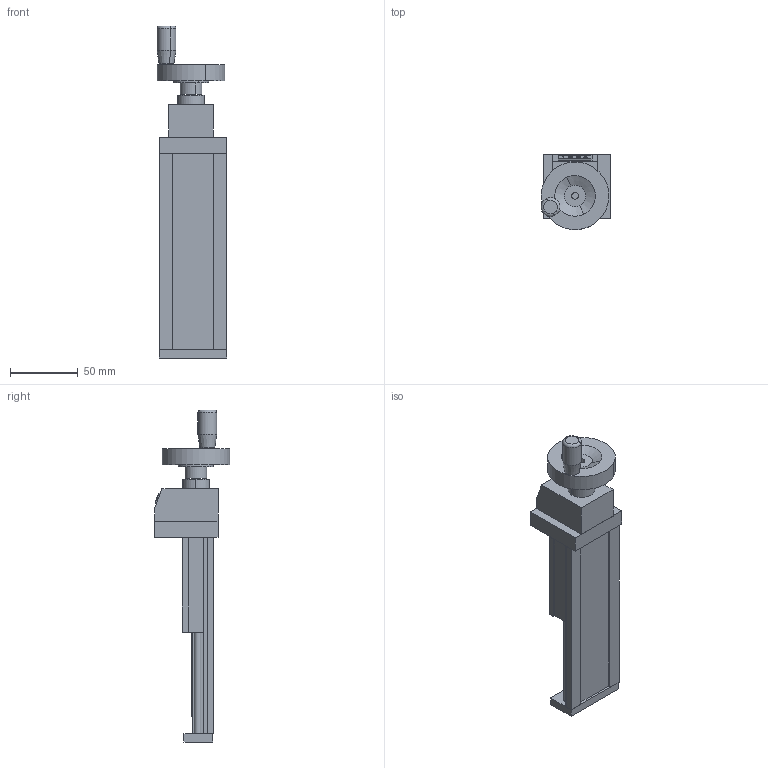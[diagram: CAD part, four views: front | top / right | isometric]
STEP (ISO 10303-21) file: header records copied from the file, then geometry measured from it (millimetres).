
FILE_DESCRIPTION (( 'STEP AP203' ), '1' );
FILE_NAME ('dL 50 digital Handrad.STEP', '2002-07-08T12:45:13', ( '' ), ( '' ), 'SwSTEP 2.0', 'SolidWorks 2002127', '' );
FILE_SCHEMA (( 'CONFIG_CONTROL_DESIGN' ));
Length unit declared in the file: millimetre
Products named in the file (5): dL 50 digital Handrad; Zähler DA04-+-D004962_ _Standard; dL 50 light-+-D018335_ _Digital Hand; Aussenschlitten 50-+-D009143_ _Standard; Handkurbel d50 dL50-+-D006084_ _PDB_1008210
Assembly tree (4 placements, depth 2):
  dL 50 digital Handrad
    Handkurbel d50 dL50-+-D006084_ _PDB_1008210
    Zähler DA04-+-D004962_ _Standard
    Aussenschlitten 50-+-D009143_ _Standard
    dL 50 light-+-D018335_ _Digital Hand
Bounding box: 51.63 x 55.61 x 245 mm (x, y, z)
Volume: 191410.9 mm3; surface area: 68404.4 mm2
Topology: 4 solids, 4 shells, 213 faces, 543 edges, 358 vertices
Faces by surface type: plane 138, cylinder 49, bspline 20, cone 4, torus 2
Entity records: 8612 total; most frequent: CARTESIAN_POINT 2933, ORIENTED_EDGE 1086, DIRECTION 1011, EDGE_CURVE 543, LINE 395, VECTOR 395, VERTEX_POINT 358, AXIS2_PLACEMENT_3D 308
